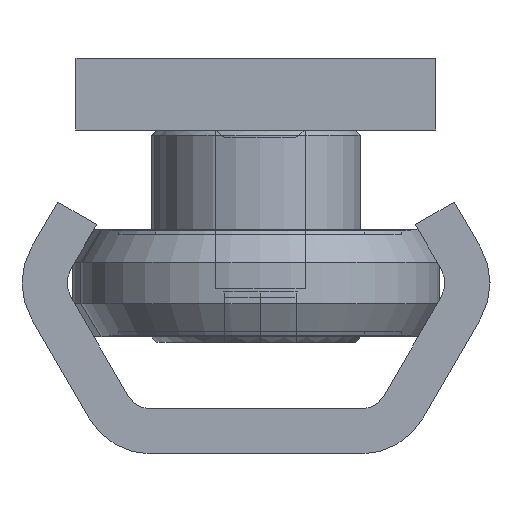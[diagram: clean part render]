
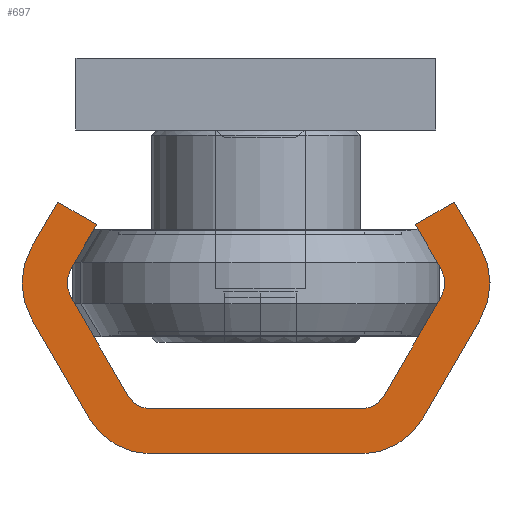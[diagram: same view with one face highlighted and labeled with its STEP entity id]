
A CAD part, left-side view. The second image highlights one B-rep face of the part: STEP entity #697.
In plain terms, the highlighted planar face has unit normal (-1, 0, 0).
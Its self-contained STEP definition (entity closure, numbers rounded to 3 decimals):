
#697 = ADVANCED_FACE( '', ( #1523 ), #1524, .F. );
#1523 = FACE_OUTER_BOUND( '', #2499, .T. );
#1524 = PLANE( '', #2500 );
#2499 = EDGE_LOOP( '', ( #3914, #3915, #3916, #3917, #3918, #3919, #3920, #3921, #3922, #3923, #3924, #3925, #3926, #3927, #3928, #3929, #3930, #3931, #3932, #3933 ) );
#2500 = AXIS2_PLACEMENT_3D( '', #3934, #3935, #3936 );
#3914 = ORIENTED_EDGE( '', *, *, #4182, .F. );
#3915 = ORIENTED_EDGE( '', *, *, #4548, .F. );
#3916 = ORIENTED_EDGE( '', *, *, #4195, .F. );
#3917 = ORIENTED_EDGE( '', *, *, #4200, .F. );
#3918 = ORIENTED_EDGE( '', *, *, #4080, .F. );
#3919 = ORIENTED_EDGE( '', *, *, #4464, .F. );
#3920 = ORIENTED_EDGE( '', *, *, #4525, .F. );
#3921 = ORIENTED_EDGE( '', *, *, #4582, .T. );
#3922 = ORIENTED_EDGE( '', *, *, #4583, .F. );
#3923 = ORIENTED_EDGE( '', *, *, #4578, .T. );
#3924 = ORIENTED_EDGE( '', *, *, #4411, .F. );
#3925 = ORIENTED_EDGE( '', *, *, #4421, .T. );
#3926 = ORIENTED_EDGE( '', *, *, #4460, .F. );
#3927 = ORIENTED_EDGE( '', *, *, #4575, .T. );
#3928 = ORIENTED_EDGE( '', *, *, #4383, .F. );
#3929 = ORIENTED_EDGE( '', *, *, #4532, .F. );
#3930 = ORIENTED_EDGE( '', *, *, #4416, .F. );
#3931 = ORIENTED_EDGE( '', *, *, #4474, .F. );
#3932 = ORIENTED_EDGE( '', *, *, #4208, .F. );
#3933 = ORIENTED_EDGE( '', *, *, #4344, .F. );
#3934 = CARTESIAN_POINT( '', ( 0., -5.825, -4. ) );
#3935 = DIRECTION( '', ( 1., 0., 0. ) );
#3936 = DIRECTION( '', ( 0., 0., -1. ) );
#4080 = EDGE_CURVE( '', #4644, #4645, #4646, .T. );
#4182 = EDGE_CURVE( '', #4826, #4827, #4828, .T. );
#4195 = EDGE_CURVE( '', #4849, #4850, #4851, .T. );
#4200 = EDGE_CURVE( '', #4645, #4849, #4858, .T. );
#4208 = EDGE_CURVE( '', #4869, #4870, #4871, .T. );
#4344 = EDGE_CURVE( '', #4827, #4869, #5084, .T. );
#4383 = EDGE_CURVE( '', #5137, #5138, #5139, .T. );
#4411 = EDGE_CURVE( '', #5192, #5193, #5194, .T. );
#4416 = EDGE_CURVE( '', #5201, #5202, #5203, .T. );
#4421 = EDGE_CURVE( '', #5192, #5210, #5211, .T. );
#4460 = EDGE_CURVE( '', #5263, #5210, #5264, .T. );
#4464 = EDGE_CURVE( '', #5269, #4644, #5270, .T. );
#4474 = EDGE_CURVE( '', #4870, #5201, #5281, .T. );
#4525 = EDGE_CURVE( '', #5342, #5269, #5343, .T. );
#4532 = EDGE_CURVE( '', #5202, #5137, #5351, .T. );
#4548 = EDGE_CURVE( '', #4850, #4826, #5370, .T. );
#4575 = EDGE_CURVE( '', #5263, #5138, #5397, .T. );
#4578 = EDGE_CURVE( '', #5400, #5193, #5401, .T. );
#4582 = EDGE_CURVE( '', #5342, #5406, #5407, .T. );
#4583 = EDGE_CURVE( '', #5400, #5406, #5408, .T. );
#4644 = VERTEX_POINT( '', #5477 );
#4645 = VERTEX_POINT( '', #5478 );
#4646 = LINE( '', #5479, #5480 );
#4826 = VERTEX_POINT( '', #5670 );
#4827 = VERTEX_POINT( '', #5671 );
#4828 = LINE( '', #5672, #5673 );
#4849 = VERTEX_POINT( '', #5699 );
#4850 = VERTEX_POINT( '', #5700 );
#4851 = LINE( '', #5701, #5702 );
#4858 = CIRCLE( '', #5712, 4. );
#4869 = VERTEX_POINT( '', #5723 );
#4870 = VERTEX_POINT( '', #5724 );
#4871 = LINE( '', #5725, #5726 );
#5084 = CIRCLE( '', #5978, 4. );
#5137 = VERTEX_POINT( '', #6039 );
#5138 = VERTEX_POINT( '', #6040 );
#5139 = LINE( '', #6041, #6042 );
#5192 = VERTEX_POINT( '', #6098 );
#5193 = VERTEX_POINT( '', #6099 );
#5194 = LINE( '', #6100, #6101 );
#5201 = VERTEX_POINT( '', #6111 );
#5202 = VERTEX_POINT( '', #6112 );
#5203 = LINE( '', #6113, #6114 );
#5210 = VERTEX_POINT( '', #6124 );
#5211 = CIRCLE( '', #6125, 1.5 );
#5263 = VERTEX_POINT( '', #6187 );
#5264 = LINE( '', #6188, #6189 );
#5269 = VERTEX_POINT( '', #6196 );
#5270 = LINE( '', #6197, #6198 );
#5281 = CIRCLE( '', #6212, 4. );
#5342 = VERTEX_POINT( '', #6280 );
#5343 = LINE( '', #6281, #6282 );
#5351 = LINE( '', #6293, #6294 );
#5370 = CIRCLE( '', #6318, 4. );
#5397 = CIRCLE( '', #6348, 1.5 );
#5400 = VERTEX_POINT( '', #6351 );
#5401 = CIRCLE( '', #6352, 1.5 );
#5406 = VERTEX_POINT( '', #6358 );
#5407 = CIRCLE( '', #6359, 1.5 );
#5408 = LINE( '', #6360, #6361 );
#5477 = CARTESIAN_POINT( '', ( 0., 11.021, -14. ) );
#5478 = CARTESIAN_POINT( '', ( 0., 12.464, -11.5 ) );
#5479 = CARTESIAN_POINT( '', ( 0., 11.021, -14. ) );
#5480 = VECTOR( '', #6424, 1000. );
#5670 = CARTESIAN_POINT( '', ( 0., 5.825, 0. ) );
#5671 = CARTESIAN_POINT( '', ( 0., -5.825, 0. ) );
#5672 = CARTESIAN_POINT( '', ( 0., 5.825, 0. ) );
#5673 = VECTOR( '', #6645, 1000. );
#5699 = CARTESIAN_POINT( '', ( 0., 12.464, -7.5 ) );
#5700 = CARTESIAN_POINT( '', ( 0., 9.289, -2. ) );
#5701 = CARTESIAN_POINT( '', ( 0., 12.464, -7.5 ) );
#5702 = VECTOR( '', #6663, 1000. );
#5712 = AXIS2_PLACEMENT_3D( '', #6667, #6668, #6669 );
#5723 = CARTESIAN_POINT( '', ( 0., -9.289, -2. ) );
#5724 = CARTESIAN_POINT( '', ( 0., -12.464, -7.5 ) );
#5725 = CARTESIAN_POINT( '', ( 0., -9.289, -2. ) );
#5726 = VECTOR( '', #6682, 1000. );
#5978 = AXIS2_PLACEMENT_3D( '', #6887, #6888, #6889 );
#6039 = CARTESIAN_POINT( '', ( 0., -8.856, -12.75 ) );
#6040 = CARTESIAN_POINT( '', ( 0., -10.299, -10.25 ) );
#6041 = CARTESIAN_POINT( '', ( 0., -8.856, -12.75 ) );
#6042 = VECTOR( '', #6937, 1000. );
#6098 = CARTESIAN_POINT( '', ( 0., -5.825, -2.5 ) );
#6099 = CARTESIAN_POINT( '', ( 0., 5.825, -2.5 ) );
#6100 = CARTESIAN_POINT( '', ( 0., -5.825, -2.5 ) );
#6101 = VECTOR( '', #7010, 1000. );
#6111 = CARTESIAN_POINT( '', ( 0., -12.464, -11.5 ) );
#6112 = CARTESIAN_POINT( '', ( 0., -11.021, -14. ) );
#6113 = CARTESIAN_POINT( '', ( 0., -12.464, -11.5 ) );
#6114 = VECTOR( '', #7014, 1000. );
#6124 = CARTESIAN_POINT( '', ( 0., -7.124, -3.25 ) );
#6125 = AXIS2_PLACEMENT_3D( '', #7018, #7019, #7020 );
#6187 = CARTESIAN_POINT( '', ( 0., -10.299, -8.75 ) );
#6188 = CARTESIAN_POINT( '', ( 0., -10.299, -8.75 ) );
#6189 = VECTOR( '', #7070, 1000. );
#6196 = CARTESIAN_POINT( '', ( 0., 8.856, -12.75 ) );
#6197 = CARTESIAN_POINT( '', ( 0., 8.856, -12.75 ) );
#6198 = VECTOR( '', #7073, 1000. );
#6212 = AXIS2_PLACEMENT_3D( '', #7077, #7078, #7079 );
#6280 = CARTESIAN_POINT( '', ( 0., 10.299, -10.25 ) );
#6281 = CARTESIAN_POINT( '', ( 0., 10.299, -10.25 ) );
#6282 = VECTOR( '', #7129, 1000. );
#6293 = CARTESIAN_POINT( '', ( 0., -11.021, -14. ) );
#6294 = VECTOR( '', #7133, 1000. );
#6318 = AXIS2_PLACEMENT_3D( '', #7145, #7146, #7147 );
#6348 = AXIS2_PLACEMENT_3D( '', #7163, #7164, #7165 );
#6351 = CARTESIAN_POINT( '', ( 0., 7.124, -3.25 ) );
#6352 = AXIS2_PLACEMENT_3D( '', #7169, #7170, #7171 );
#6358 = CARTESIAN_POINT( '', ( 0., 10.299, -8.75 ) );
#6359 = AXIS2_PLACEMENT_3D( '', #7176, #7177, #7178 );
#6360 = CARTESIAN_POINT( '', ( 0., 7.124, -3.25 ) );
#6361 = VECTOR( '', #7179, 1000. );
#6424 = DIRECTION( '', ( 0., 0.5, 0.866 ) );
#6645 = DIRECTION( '', ( 0., -1., 0. ) );
#6663 = DIRECTION( '', ( 0., -0.5, 0.866 ) );
#6667 = CARTESIAN_POINT( '', ( 0., 9., -9.5 ) );
#6668 = DIRECTION( '', ( 1., 0., 0. ) );
#6669 = DIRECTION( '', ( 0., 0., -1. ) );
#6682 = DIRECTION( '', ( 0., -0.5, -0.866 ) );
#6887 = CARTESIAN_POINT( '', ( 0., -5.825, -4. ) );
#6888 = DIRECTION( '', ( 1., 0., 0. ) );
#6889 = DIRECTION( '', ( 0., 0., -1. ) );
#6937 = DIRECTION( '', ( 0., -0.5, 0.866 ) );
#7010 = DIRECTION( '', ( 0., 1., 0. ) );
#7014 = DIRECTION( '', ( 0., 0.5, -0.866 ) );
#7018 = CARTESIAN_POINT( '', ( 0., -5.825, -4. ) );
#7019 = DIRECTION( '', ( 1., 0., 0. ) );
#7020 = DIRECTION( '', ( 0., 0., -1. ) );
#7070 = DIRECTION( '', ( 0., 0.5, 0.866 ) );
#7073 = DIRECTION( '', ( 0., 0.866, -0.5 ) );
#7077 = CARTESIAN_POINT( '', ( 0., -9., -9.5 ) );
#7078 = DIRECTION( '', ( 1., 0., 0. ) );
#7079 = DIRECTION( '', ( 0., 0., -1. ) );
#7129 = DIRECTION( '', ( 0., -0.5, -0.866 ) );
#7133 = DIRECTION( '', ( 0., 0.866, 0.5 ) );
#7145 = CARTESIAN_POINT( '', ( 0., 5.825, -4. ) );
#7146 = DIRECTION( '', ( 1., 0., 0. ) );
#7147 = DIRECTION( '', ( 0., 0., -1. ) );
#7163 = CARTESIAN_POINT( '', ( 0., -9., -9.5 ) );
#7164 = DIRECTION( '', ( 1., 0., 0. ) );
#7165 = DIRECTION( '', ( 0., 0., -1. ) );
#7169 = CARTESIAN_POINT( '', ( 0., 5.825, -4. ) );
#7170 = DIRECTION( '', ( 1., 0., 0. ) );
#7171 = DIRECTION( '', ( 0., 0., -1. ) );
#7176 = CARTESIAN_POINT( '', ( 0., 9., -9.5 ) );
#7177 = DIRECTION( '', ( 1., 0., 0. ) );
#7178 = DIRECTION( '', ( 0., 0., -1. ) );
#7179 = DIRECTION( '', ( 0., 0.5, -0.866 ) );
